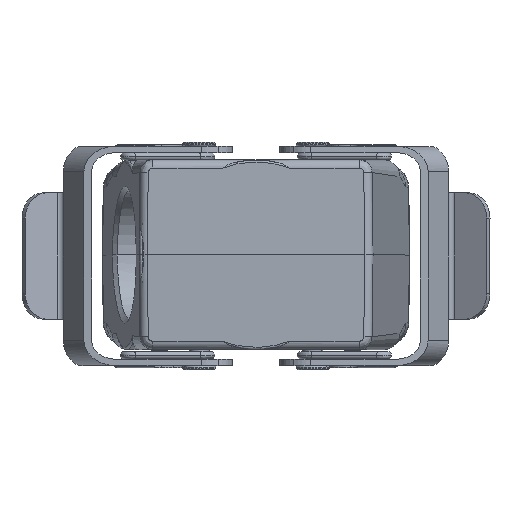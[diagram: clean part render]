
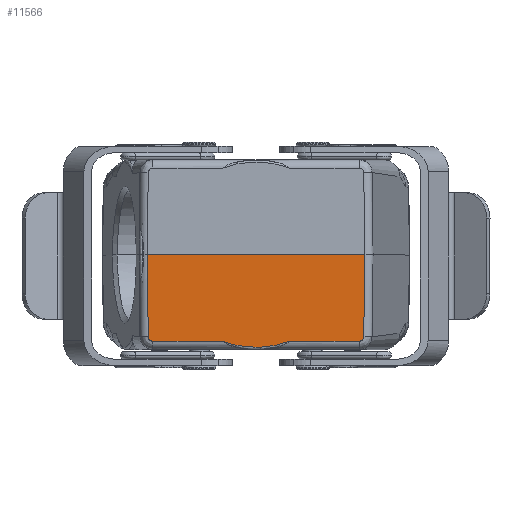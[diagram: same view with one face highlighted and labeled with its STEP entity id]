
A CAD part, top view. The second image highlights one B-rep face of the part: STEP entity #11566.
In plain terms, the highlighted planar face has unit normal (0, -1, 0.014) by its records, which use the part's own axes.
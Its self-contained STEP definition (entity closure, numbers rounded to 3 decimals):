
#485 = CARTESIAN_POINT ( 'NONE',  ( 24.543, 71.713, -20.528 ) ) ;
#505 = ORIENTED_EDGE ( 'NONE', *, *, #21256, .T. ) ;
#911 = CARTESIAN_POINT ( 'NONE',  ( 25.068, 71.715, -20.399 ) ) ;
#1394 = CARTESIAN_POINT ( 'NONE',  ( -25.563, 71.724, -19.772 ) ) ;
#1702 = CARTESIAN_POINT ( 'NONE',  ( -2.7, 71.694, -21.883 ) ) ;
#1721 = CARTESIAN_POINT ( 'NONE',  ( -24.543, 71.713, -20.528 ) ) ;
#1756 = EDGE_CURVE ( 'NONE', #9391, #25213, #16068, .T. ) ;
#1983 = VECTOR ( 'NONE', #25008, 1000. ) ;
#2033 = CARTESIAN_POINT ( 'NONE',  ( -25.822, 72., 0. ) ) ;
#2067 = EDGE_CURVE ( 'NONE', #12719, #9391, #18323, .T. ) ;
#2169 = FACE_OUTER_BOUND ( 'NONE', #24102, .T. ) ;
#2943 = CARTESIAN_POINT ( 'NONE',  ( -25.59, 71.723, -19.802 ) ) ;
#3528 = CARTESIAN_POINT ( 'NONE',  ( -25.181, 71.716, -20.325 ) ) ;
#3611 = VECTOR ( 'NONE', #13937, 1000. ) ;
#3730 = CARTESIAN_POINT ( 'NONE',  ( -1.354, 71.693, -22.007 ) ) ;
#3883 = ORIENTED_EDGE ( 'NONE', *, *, #22938, .T. ) ;
#4496 = CARTESIAN_POINT ( 'NONE',  ( 24.681, 71.713, -20.528 ) ) ;
#5326 = CARTESIAN_POINT ( 'NONE',  ( 3.7, 71.697, -21.694 ) ) ;
#5443 = DIRECTION ( 'NONE',  ( 1., 0., 0. ) ) ;
#5512 = CARTESIAN_POINT ( 'NONE',  ( 0.677, 71.693, -22.007 ) ) ;
#5571 = CARTESIAN_POINT ( 'NONE',  ( -24.543, 71.713, -20.528 ) ) ;
#5656 = CARTESIAN_POINT ( 'NONE',  ( -25.455, 71.72, -20.023 ) ) ;
#5739 = CARTESIAN_POINT ( 'NONE',  ( -25.593, 71.728, -19.502 ) ) ;
#6459 = CARTESIAN_POINT ( 'NONE',  ( 25.822, 72., 0. ) ) ;
#6836 = CARTESIAN_POINT ( 'NONE',  ( 25.563, 71.724, -19.772 ) ) ;
#7634 = B_SPLINE_CURVE_WITH_KNOTS ( 'NONE', 3,
 ( #9757, #21931, #17693, #23966, #25835, #15797, #1702, #3730, #5512, #21566, #11800, #13659, #5326, #19523, #15882, #9586, #17590 ),
 .UNSPECIFIED., .F., .F.,
 ( 4, 1, 2, 2, 2, 1, 1, 2, 2, 4 ),
 ( 0., 0.125, 0.187, 0.25, 0.5, 0.625, 0.687, 0.719, 0.75, 1. ),
 .UNSPECIFIED. ) ;
#7789 = EDGE_CURVE ( 'NONE', #25405, #24304, #12116, .T. ) ;
#7808 = B_SPLINE_CURVE_WITH_KNOTS ( 'NONE', 3,
 ( #485, #4496, #8633, #911, #25317, #25404, #15098, #6836, #12874, #14928 ),
 .UNSPECIFIED., .F., .F.,
 ( 4, 2, 2, 2, 4 ),
 ( 0., 0.25, 0.5, 0.75, 1. ),
 .UNSPECIFIED. ) ;
#8113 = ORIENTED_EDGE ( 'NONE', *, *, #7789, .T. ) ;
#8334 = CARTESIAN_POINT ( 'NONE',  ( 7.93, 71.713, -20.528 ) ) ;
#8633 = CARTESIAN_POINT ( 'NONE',  ( 24.813, 71.714, -20.502 ) ) ;
#8786 = DIRECTION ( 'NONE',  ( 0.012, -0.014, -1. ) ) ;
#8819 = CARTESIAN_POINT ( 'NONE',  ( 25.593, 71.728, -19.502 ) ) ;
#9357 = CARTESIAN_POINT ( 'NONE',  ( -24.682, 71.713, -20.528 ) ) ;
#9391 = VERTEX_POINT ( 'NONE', #24326 ) ;
#9586 = CARTESIAN_POINT ( 'NONE',  ( 6.659, 71.707, -21.018 ) ) ;
#9757 = CARTESIAN_POINT ( 'NONE',  ( -7.93, 71.713, -20.528 ) ) ;
#10256 = LINE ( 'NONE', #26115, #3611 ) ;
#10416 = CARTESIAN_POINT ( 'NONE',  ( 24.543, 71.713, -20.528 ) ) ;
#10680 = ORIENTED_EDGE ( 'NONE', *, *, #1756, .T. ) ;
#11566 = ADVANCED_FACE ( 'NONE', ( #2169 ), #23157, .T. ) ;
#11597 = CARTESIAN_POINT ( 'NONE',  ( -25.067, 71.715, -20.4 ) ) ;
#11800 = CARTESIAN_POINT ( 'NONE',  ( 2.864, 71.695, -21.824 ) ) ;
#12116 = LINE ( 'NONE', #23046, #1983 ) ;
#12719 = VERTEX_POINT ( 'NONE', #2033 ) ;
#12874 = CARTESIAN_POINT ( 'NONE',  ( 25.591, 71.726, -19.64 ) ) ;
#13020 = ORIENTED_EDGE ( 'NONE', *, *, #2067, .T. ) ;
#13659 = CARTESIAN_POINT ( 'NONE',  ( 3.366, 71.696, -21.748 ) ) ;
#13937 = DIRECTION ( 'NONE',  ( 1., 0., 0. ) ) ;
#14171 = VECTOR ( 'NONE', #8786, 1000. ) ;
#14597 = DIRECTION ( 'NONE',  ( 0.012, 0.014, 1. ) ) ;
#14834 = VECTOR ( 'NONE', #14597, 1000. ) ;
#14928 = CARTESIAN_POINT ( 'NONE',  ( 25.593, 71.728, -19.502 ) ) ;
#14958 = EDGE_CURVE ( 'NONE', #18630, #25405, #7634, .T. ) ;
#15098 = CARTESIAN_POINT ( 'NONE',  ( 25.455, 71.72, -20.022 ) ) ;
#15612 = EDGE_CURVE ( 'NONE', #24304, #20170, #7808, .T. ) ;
#15797 = CARTESIAN_POINT ( 'NONE',  ( -4.368, 71.699, -21.572 ) ) ;
#15882 = CARTESIAN_POINT ( 'NONE',  ( 5.361, 71.701, -21.387 ) ) ;
#16045 = EDGE_CURVE ( 'NONE', #12719, #17598, #10256, .T. ) ;
#16068 = B_SPLINE_CURVE_WITH_KNOTS ( 'NONE', 3,
 ( #5739, #23644, #1394, #5656, #21723, #3528, #11597, #19949, #9357, #5571 ),
 .UNSPECIFIED., .F., .F.,
 ( 4, 2, 2, 2, 4 ),
 ( 0., 0.25, 0.5, 0.75, 1. ),
 .UNSPECIFIED. ) ;
#16527 = ORIENTED_EDGE ( 'NONE', *, *, #16045, .F. ) ;
#17135 = DIRECTION ( 'NONE',  ( 0., -0.014, -1. ) ) ;
#17590 = CARTESIAN_POINT ( 'NONE',  ( 7.93, 71.713, -20.528 ) ) ;
#17598 = VERTEX_POINT ( 'NONE', #6459 ) ;
#17693 = CARTESIAN_POINT ( 'NONE',  ( -6.331, 71.705, -21.095 ) ) ;
#18055 = LINE ( 'NONE', #18942, #14834 ) ;
#18323 = LINE ( 'NONE', #2943, #14171 ) ;
#18630 = VERTEX_POINT ( 'NONE', #24639 ) ;
#18942 = CARTESIAN_POINT ( 'NONE',  ( 25.824, 72.002, 0.15 ) ) ;
#19523 = CARTESIAN_POINT ( 'NONE',  ( 3.869, 71.697, -21.665 ) ) ;
#19949 = CARTESIAN_POINT ( 'NONE',  ( -24.814, 71.714, -20.502 ) ) ;
#20170 = VERTEX_POINT ( 'NONE', #8819 ) ;
#20175 = ORIENTED_EDGE ( 'NONE', *, *, #14958, .T. ) ;
#20202 = ORIENTED_EDGE ( 'NONE', *, *, #15612, .T. ) ;
#20671 = AXIS2_PLACEMENT_3D ( 'NONE', #21045, #24853, #17135 ) ;
#21045 = CARTESIAN_POINT ( 'NONE',  ( 22.5, 72., 0. ) ) ;
#21256 = EDGE_CURVE ( 'NONE', #25213, #18630, #22201, .T. ) ;
#21566 = CARTESIAN_POINT ( 'NONE',  ( 1.689, 71.693, -21.96 ) ) ;
#21688 = CARTESIAN_POINT ( 'NONE',  ( 22.5, 71.713, -20.528 ) ) ;
#21723 = CARTESIAN_POINT ( 'NONE',  ( -25.378, 71.719, -20.135 ) ) ;
#21931 = CARTESIAN_POINT ( 'NONE',  ( -7.295, 71.71, -20.773 ) ) ;
#22201 = LINE ( 'NONE', #21688, #25691 ) ;
#22938 = EDGE_CURVE ( 'NONE', #20170, #17598, #18055, .T. ) ;
#23046 = CARTESIAN_POINT ( 'NONE',  ( 22.5, 71.713, -20.528 ) ) ;
#23157 = PLANE ( 'NONE',  #20671 ) ;
#23644 = CARTESIAN_POINT ( 'NONE',  ( -25.591, 71.726, -19.64 ) ) ;
#23966 = CARTESIAN_POINT ( 'NONE',  ( -5.352, 71.702, -21.349 ) ) ;
#24102 = EDGE_LOOP ( 'NONE', ( #10680, #505, #20175, #8113, #20202, #3883, #16527, #13020 ) ) ;
#24304 = VERTEX_POINT ( 'NONE', #10416 ) ;
#24326 = CARTESIAN_POINT ( 'NONE',  ( -25.593, 71.728, -19.502 ) ) ;
#24639 = CARTESIAN_POINT ( 'NONE',  ( -7.93, 71.713, -20.528 ) ) ;
#24853 = DIRECTION ( 'NONE',  ( 0., -1., 0.014 ) ) ;
#25008 = DIRECTION ( 'NONE',  ( 1., 0., 0. ) ) ;
#25213 = VERTEX_POINT ( 'NONE', #1721 ) ;
#25317 = CARTESIAN_POINT ( 'NONE',  ( 25.181, 71.716, -20.326 ) ) ;
#25404 = CARTESIAN_POINT ( 'NONE',  ( 25.378, 71.719, -20.134 ) ) ;
#25405 = VERTEX_POINT ( 'NONE', #8334 ) ;
#25691 = VECTOR ( 'NONE', #5443, 1000. ) ;
#25835 = CARTESIAN_POINT ( 'NONE',  ( -4.696, 71.7, -21.503 ) ) ;
#26115 = CARTESIAN_POINT ( 'NONE',  ( 22.5, 72., 0. ) ) ;
